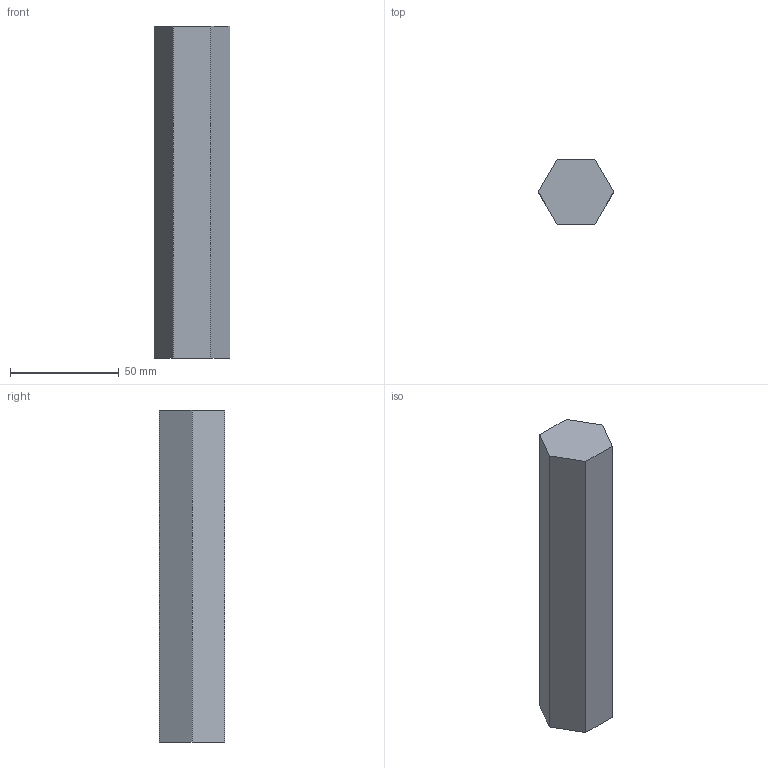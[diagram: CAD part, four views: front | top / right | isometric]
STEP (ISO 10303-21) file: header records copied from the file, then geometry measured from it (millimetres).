
FILE_DESCRIPTION(/* description */ ('HEX SHAFT 30 STEEL FOR CONVEYOR ROLLER 90'),/* implementation_level */ '2;1');
FILE_NAME(/* name */ 'Z:\WEBSITE\DREAMWEAVER\MiniTec\Products\Belt_And_Roller_Conveyors\CAD\Step\21.1802 HEX SHAFT 30.stp',/* time_stamp */ '2020-08-14T11:42:14-04:00',/* author */ ('amoles'),/* organization */ (''),/* preprocessor_version */ 'ST-DEVELOPER v18',/* originating_system */ 'Autodesk Inventor 2020',/* authorisation */ '');
FILE_SCHEMA (('AUTOMOTIVE_DESIGN { 1 0 10303 214 3 1 1 }'));
Length unit declared in the file: inch
Products named in the file (1): 21.1802
Bounding box: 34.64 x 30 x 152.4 mm (x, y, z)
Volume: 118784 mm3; surface area: 17396.7 mm2
Topology: 1 solids, 1 shells, 8 faces, 18 edges, 12 vertices
Faces by surface type: plane 8
Entity records: 265 total; most frequent: CARTESIAN_POINT 39, ORIENTED_EDGE 36, DIRECTION 36, LINE 18, VECTOR 18, EDGE_CURVE 18, VERTEX_POINT 12, AXIS2_PLACEMENT_3D 9
